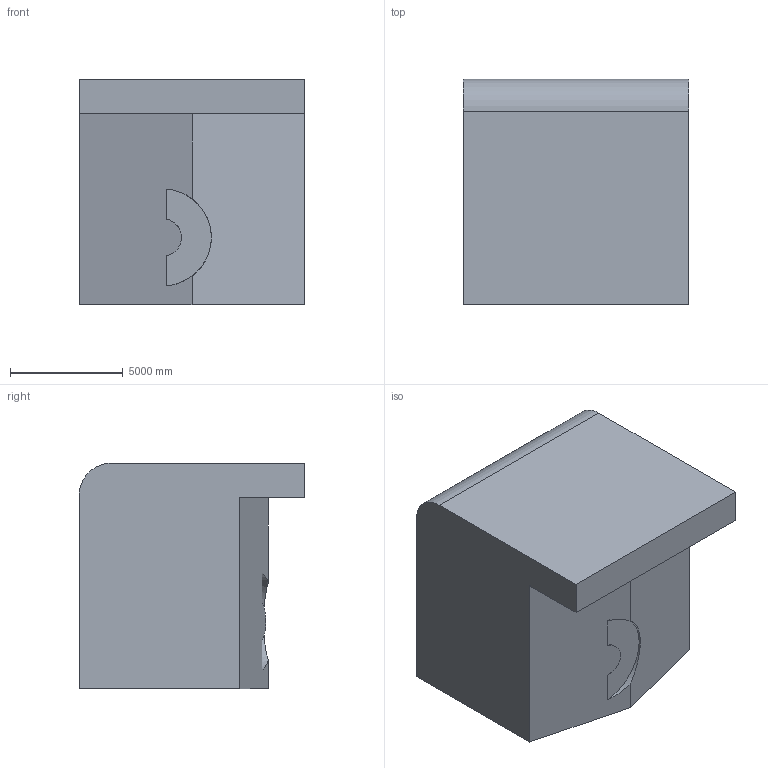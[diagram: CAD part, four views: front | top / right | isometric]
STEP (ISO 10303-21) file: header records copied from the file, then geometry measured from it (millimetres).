
FILE_DESCRIPTION (( 'STEP AP203' ), '1' );
FILE_NAME ('269.STEP', '2022-07-28T14:09:36', ( 'user' ), ( '' ), 'SwSTEP 2.0', 'SolidWorks 2021', '' );
FILE_SCHEMA (( 'CONFIG_CONTROL_DESIGN' ));
Length unit declared in the file: centimetre
Products named in the file (1): 269
Bounding box: 10000 x 10000 x 10000 mm (x, y, z)
Volume: 804143282203.3 mm3; surface area: 547881957.6 mm2
Topology: 1 solids, 1 shells, 13 faces, 33 edges, 22 vertices
Faces by surface type: plane 10, cylinder 3
Entity records: 468 total; most frequent: CARTESIAN_POINT 81, ORIENTED_EDGE 66, DIRECTION 61, EDGE_CURVE 33, LINE 25, VECTOR 25, VERTEX_POINT 22, AXIS2_PLACEMENT_3D 18
